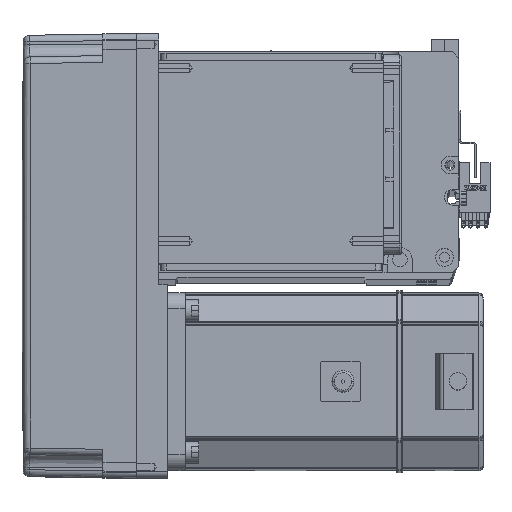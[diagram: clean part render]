
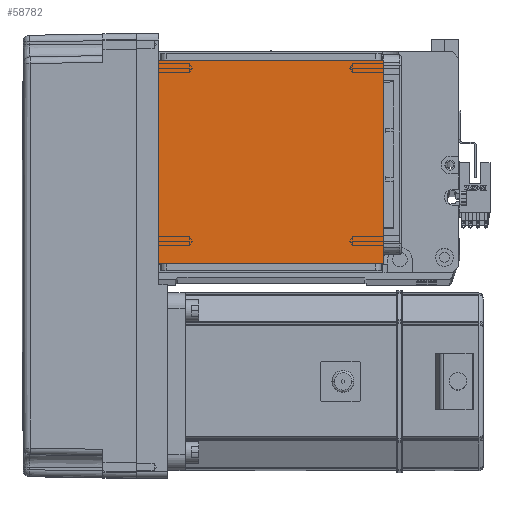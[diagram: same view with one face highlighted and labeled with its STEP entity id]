
A CAD part, top view. The second image highlights one B-rep face of the part: STEP entity #58782.
In plain terms, the highlighted planar face has unit normal (0, 0, 1).
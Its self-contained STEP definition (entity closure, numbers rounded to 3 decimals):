
#926 = AXIS2_PLACEMENT_3D ( 'NONE', #20206, #25254, #29466 ) ;
#1209 = CARTESIAN_POINT ( 'NONE',  ( 50.5, 122., 115. ) ) ;
#1283 = VECTOR ( 'NONE', #17701, 1000. ) ;
#4607 = ORIENTED_EDGE ( 'NONE', *, *, #42693, .F. ) ;
#8477 = LINE ( 'NONE', #12888, #1283 ) ;
#10327 = CARTESIAN_POINT ( 'NONE',  ( -50.5, 20., 115. ) ) ;
#10651 = CARTESIAN_POINT ( 'NONE',  ( -50.5, 111.5, 115. ) ) ;
#11654 = CARTESIAN_POINT ( 'NONE',  ( -50.5, 122., 115. ) ) ;
#12888 = CARTESIAN_POINT ( 'NONE',  ( -70.004, 111.5, 115. ) ) ;
#14742 = LINE ( 'NONE', #1209, #38439 ) ;
#17701 = DIRECTION ( 'NONE',  ( 1., 0., 0. ) ) ;
#19907 = DIRECTION ( 'NONE',  ( 0., 1., 0. ) ) ;
#20206 = CARTESIAN_POINT ( 'NONE',  ( 0., 0., 115. ) ) ;
#20447 = EDGE_LOOP ( 'NONE', ( #4607, #36271, #53082, #44333 ) ) ;
#20584 = CARTESIAN_POINT ( 'NONE',  ( 50.5, 111.5, 115. ) ) ;
#21616 = CARTESIAN_POINT ( 'NONE',  ( -70.004, 20., 115. ) ) ;
#25254 = DIRECTION ( 'NONE',  ( 0., 0., 1. ) ) ;
#29466 = DIRECTION ( 'NONE',  ( 1., 0., 0. ) ) ;
#33029 = CARTESIAN_POINT ( 'NONE',  ( 50.5, 20., 115. ) ) ;
#35855 = DIRECTION ( 'NONE',  ( -1., 0., 0. ) ) ;
#36271 = ORIENTED_EDGE ( 'NONE', *, *, #52071, .T. ) ;
#37689 = EDGE_CURVE ( 'NONE', #49086, #53005, #14742, .T. ) ;
#38439 = VECTOR ( 'NONE', #19907, 1000. ) ;
#38565 = DIRECTION ( 'NONE',  ( 0., -1., 0. ) ) ;
#39906 = VECTOR ( 'NONE', #38565, 1000. ) ;
#42198 = EDGE_CURVE ( 'NONE', #49086, #56842, #44408, .T. ) ;
#42693 = EDGE_CURVE ( 'NONE', #55795, #53005, #8477, .T. ) ;
#43259 = PLANE ( 'NONE',  #926 ) ;
#44333 = ORIENTED_EDGE ( 'NONE', *, *, #37689, .T. ) ;
#44408 = LINE ( 'NONE', #21616, #51663 ) ;
#45492 = FACE_OUTER_BOUND ( 'NONE', #20447, .T. ) ;
#49086 = VERTEX_POINT ( 'NONE', #33029 ) ;
#51663 = VECTOR ( 'NONE', #35855, 1000. ) ;
#52071 = EDGE_CURVE ( 'NONE', #55795, #56842, #57164, .T. ) ;
#53005 = VERTEX_POINT ( 'NONE', #20584 ) ;
#53082 = ORIENTED_EDGE ( 'NONE', *, *, #42198, .F. ) ;
#55795 = VERTEX_POINT ( 'NONE', #10651 ) ;
#56842 = VERTEX_POINT ( 'NONE', #10327 ) ;
#57164 = LINE ( 'NONE', #11654, #39906 ) ;
#58782 = ADVANCED_FACE ( 'NONE', ( #45492 ), #43259, .T. ) ;
